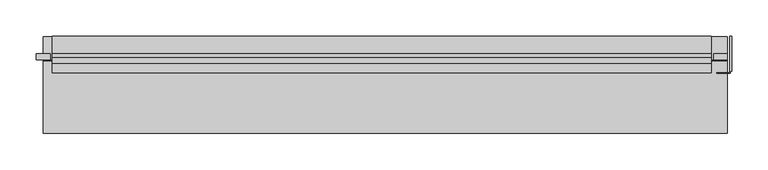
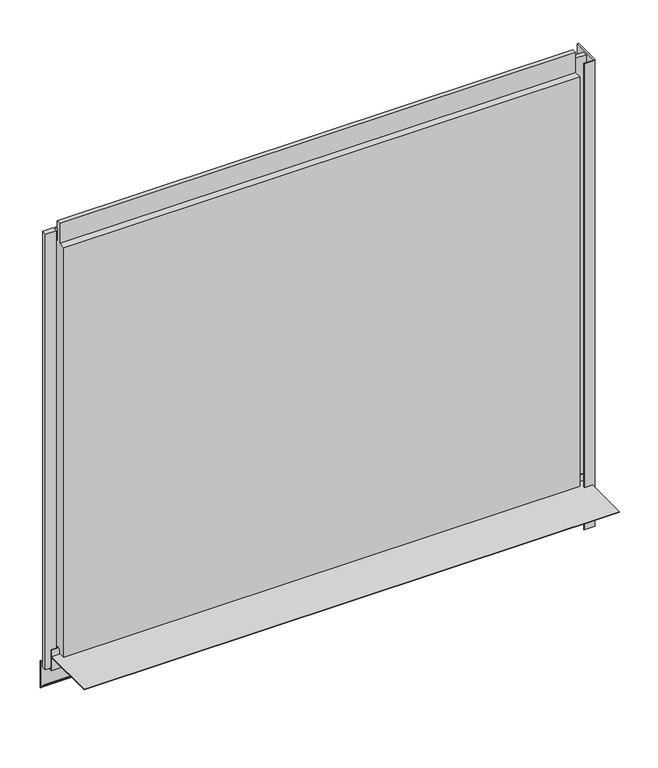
"""IFC4 building model written with IfcOpenShell, lengths in millimetres: plate geometry, Trimo_Qbiss Screen_Normal Panel-HORIZONTAL : HR - B."""

import ifcopenshell
import ifcopenshell.guid

model = None  # the IFC model being written
_history = None  # IfcOwnerHistory: only IFC2X3 demands one
_inside = {}  # id of a spatial element -> (the spatial element, [elements in it])
_under = {}  # id of a project, library or spatial element -> (it, [spatial elements below it])
_declared = {}  # id of a project -> (the project, [libraries it declares])
_typed = {}  # id of a type object -> (the type object, [elements of that type])
_made_of = {}  # id of a material, layer set ... -> (it, [elements and type objects made of it])


def new_model(schema):
    """Start an empty IFC model of exactly this schema.

    Asked for "IFC4X3", IfcOpenShell would pick the latest addendum, in which some entities
    have other attributes; the version numbers below select the first issue.
    IFC2X3 requires an IfcOwnerHistory on every rooted entity: one is made here for all.
    """
    global model, _history
    if schema == "IFC4X3":
        model = ifcopenshell.file(schema_version=(4, 3, 0, 0))
    else:
        model = ifcopenshell.file(schema=schema)
    _inside.clear()
    _under.clear()
    _declared.clear()
    _typed.clear()
    _made_of.clear()
    _history = None
    if model.schema == "IFC2X3":
        org = make("IfcOrganization", Name="unknown")
        user = make(
            "IfcPersonAndOrganization",
            ThePerson=make("IfcPerson", FamilyName="unknown"),
            TheOrganization=org,
        )
        app = make(
            "IfcApplication",
            ApplicationDeveloper=org,
            Version="unknown",
            ApplicationFullName="unknown",
            ApplicationIdentifier="unknown",
        )
        _history = make(
            "IfcOwnerHistory",
            OwningUser=user,
            OwningApplication=app,
            ChangeAction="ADDED",
            CreationDate=0,
        )
    return model


def make(cls, **values):
    """One entity of the class cls with the attributes given. An attribute that is None is left unset."""
    return model.create_entity(
        cls, **{name: value for name, value in values.items() if value is not None}
    )


def rooted(cls, **values):
    """An entity with a GlobalId (a new one), such as an element, a storey or a relation."""
    return make(cls, GlobalId=ifcopenshell.guid.new(), OwnerHistory=_history, **values)


def si_unit(unit_type, name, prefix=None):
    """IfcSIUnit, for example si_unit("LENGTHUNIT", "METRE", prefix="MILLI")."""
    return make("IfcSIUnit", UnitType=unit_type, Prefix=prefix, Name=name)


def assignment(units):
    """IfcUnitAssignment: the units of a project."""
    return None if units is None else make("IfcUnitAssignment", Units=units)


def point(xyz):
    """IfcCartesianPoint."""
    return None if xyz is None else make("IfcCartesianPoint", Coordinates=xyz)


def direction(xyz):
    """IfcDirection."""
    return None if xyz is None else make("IfcDirection", DirectionRatios=xyz)


def frame(location, z_axis=None, x_axis=None):
    """IfcAxis2Placement3D, a coordinate frame: its origin and axes. An axis left out is left unset."""
    return make(
        "IfcAxis2Placement3D",
        Location=point(location),
        Axis=direction(z_axis),
        RefDirection=direction(x_axis),
    )


def origin():
    """The frame at (0, 0, 0) with its axes left unset."""
    return frame((0.0, 0.0, 0.0))


def place(relative_to, where):
    """IfcLocalPlacement: puts the frame where relative to a parent placement (None: the world)."""
    return make(
        "IfcLocalPlacement", PlacementRelTo=relative_to, RelativePlacement=where
    )


def context(
    kind, dimensions, precision=None, world=None, true_north=None, identifier=None
):
    """IfcGeometricRepresentationContext, for example the 3D "Model" context."""
    return make(
        "IfcGeometricRepresentationContext",
        ContextIdentifier=identifier,
        ContextType=kind,
        CoordinateSpaceDimension=dimensions,
        Precision=precision,
        WorldCoordinateSystem=world,
        TrueNorth=true_north,
    )


def project(units=None, contexts=None):
    """IfcProject with its units and contexts."""
    return rooted(
        "IfcProject",
        Name="project",
        RepresentationContexts=contexts,
        UnitsInContext=assignment(units),
    )


def spatial(cls, under=None, at=None, **own):
    """A site, building, storey or space (cls), placed at a placement, below another one or the project."""
    s = rooted(cls, ObjectPlacement=at, **own)
    if under is not None:
        _under.setdefault(under.id(), (under, []))[1].append(s)
    return s


def polyline(points):
    """IfcPolyline through the points."""
    return make("IfcPolyline", Points=[point(p) for p in points])


def outline(outer, holes=None, kind="AREA"):
    """IfcArbitraryClosedProfileDef: a profile drawn as a closed curve; with holes, ...WithVoids."""
    if holes is None:
        return make("IfcArbitraryClosedProfileDef", ProfileType=kind, OuterCurve=outer)
    return make(
        "IfcArbitraryProfileDefWithVoids",
        ProfileType=kind,
        OuterCurve=outer,
        InnerCurves=holes,
    )


def extrude(swept, where, along, depth):
    """IfcExtrudedAreaSolid: the profile swept, set in the frame where, extruded along a direction by depth."""
    return make(
        "IfcExtrudedAreaSolid",
        SweptArea=swept,
        Position=where,
        ExtrudedDirection=direction(along),
        Depth=depth,
    )


def shape(context_of_items, identifier, shape_type, items):
    """IfcShapeRepresentation: the items that make up one representation, for example the "Body"."""
    return make(
        "IfcShapeRepresentation",
        ContextOfItems=context_of_items,
        RepresentationIdentifier=identifier,
        RepresentationType=shape_type,
        Items=items,
    )


def source(mapping_origin, context_of_items, identifier, shape_type, items):
    """IfcRepresentationMap: a shape defined once, which mapped items show again and again."""
    return make(
        "IfcRepresentationMap",
        MappingOrigin=mapping_origin,
        MappedRepresentation=shape(context_of_items, identifier, shape_type, items),
    )


def transform(
    local_origin,
    x_axis=None,
    y_axis=None,
    z_axis=None,
    scale=None,
    scale2=None,
    scale3=None,
    uniform=True,
):
    """IfcCartesianTransformationOperator3D, or its non-uniform kind. x_axis, y_axis, z_axis: its Axis1, 2, 3."""
    if uniform:
        return make(
            "IfcCartesianTransformationOperator3D",
            Axis1=direction(x_axis),
            Axis2=direction(y_axis),
            LocalOrigin=point(local_origin),
            Scale=scale,
            Axis3=direction(z_axis),
        )
    return make(
        "IfcCartesianTransformationOperator3DnonUniform",
        Axis1=direction(x_axis),
        Axis2=direction(y_axis),
        LocalOrigin=point(local_origin),
        Scale=scale,
        Axis3=direction(z_axis),
        Scale2=scale2,
        Scale3=scale3,
    )


def mapped(mapping_source, mapping_target):
    """IfcMappedItem: shows the shape of a source again, moved by a transform."""
    return make(
        "IfcMappedItem", MappingSource=mapping_source, MappingTarget=mapping_target
    )


def made_of(thing, what):
    """Note that an element or type object is made of a material, layer set ...; save() writes the relation."""
    if what is not None:
        _made_of.setdefault(what.id(), (what, []))[1].append(thing)
    return thing


def element(
    cls,
    number,
    at=None,
    inside=None,
    cuts=None,
    type_object=None,
    material=None,
    context=None,
    identifier="Body",
    shape_type=None,
    held_by="IfcProductDefinitionShape",
    body=None,
    shapes=None,
    **own,
):
    """One element of the class cls, such as IfcWall. Its Tag is "e" and its number.

    at: its placement. inside: the storey or other place that contains it. cuts: it is an
    opening in that element (IfcRelVoidsElement). A single representation is given by context,
    identifier, shape_type and body (its items); several are given by shapes. held_by: the class
    of the entity that holds the representations. save() writes the other relations.
    """
    e = rooted(cls, Tag="e%d" % number, ObjectPlacement=at, **own)
    if body is not None:
        shapes = [shape(context, identifier, shape_type, body)]
    if shapes is not None:
        e.Representation = make(held_by, Representations=shapes)
    if inside is not None:
        _inside.setdefault(inside.id(), (inside, []))[1].append(e)
    if cuts is not None:
        rooted(
            "IfcRelVoidsElement", RelatingBuildingElement=cuts, RelatedOpeningElement=e
        )
    if type_object is not None:
        _typed.setdefault(type_object.id(), (type_object, []))[1].append(e)
    return made_of(e, material)


def aggregate(whole, parts):
    """IfcRelAggregates: a whole, such as a stair, and the parts it consists of."""
    return rooted("IfcRelAggregates", RelatingObject=whole, RelatedObjects=parts)


def save(model, path):
    """Write the relations noted so far, then the file.

    IfcRelAggregates (storeys below a building ...), IfcRelContainedInSpatialStructure (elements
    in a storey), IfcRelDefinesByType, IfcRelAssociatesMaterial and IfcRelDeclares: one each for
    every whole, place, type object, material and project.
    """
    for whole, parts in _under.values():
        aggregate(whole, parts)
    for where, things in _inside.values():
        rooted(
            "IfcRelContainedInSpatialStructure",
            RelatedElements=things,
            RelatingStructure=where,
        )
    for kind, things in _typed.values():
        rooted("IfcRelDefinesByType", RelatedObjects=things, RelatingType=kind)
    for what, things in _made_of.values():
        rooted("IfcRelAssociatesMaterial", RelatedObjects=things, RelatingMaterial=what)
    for by, libraries in _declared.values():
        rooted("IfcRelDeclares", RelatingContext=by, RelatedDefinitions=libraries)
    model.write(path)


def plate_d4cb7aa0(model_context):
    return source(origin(), model_context, "Body", "SweptSolid", [
        extrude(outline(polyline([(111.7, 14.0835797), (112.5, 14.0835797), (112.5, -23.0), (145.0, -25.8433816), (145.0, -76.0), (132.1509533, -63.1509533), (132.7166388, -62.5852679), (144.2, -74.0686292), (144.2, -26.5764465), (111.7, -23.7330649), (111.7, 1.0), (12.5, 1.0), (12.5, 1.8), (111.7, 1.8), (111.7, 14.0835797)])), frame((-478.75, 0.0, 0.0), z_axis=(1.0, 0.0, 0.0), x_axis=(0.0, 1.0, 0.0)), (0.0, 0.0, 1.0), 938.5),
        extrude(outline(polyline([(462.75, 145.0), (465.35, 145.0), (465.35, 97.0), (464.55, 97.0), (464.55, 144.2), (463.55, 144.2), (463.55, 94.2), (445.25, 94.2), (445.25, 95.0), (462.75, 95.0), (462.75, 145.0)])), frame((0.0, 0.0, -76.0), z_axis=(0.0, 0.0, 1.0), x_axis=(1.0, 0.0, 0.0)), (0.0, 0.0, 1.0), 862.95),
        extrude(outline(polyline([(-469.25, 121.5978162), (-469.25, 112.8978162), (-488.25, 112.8978162), (-488.25, 121.5978162), (-469.25, 121.5978162)])), frame((0.0, 0.0, -20.0), z_axis=(0.0, 0.0, 1.0), x_axis=(1.0, 0.0, 0.0)), (0.0, 0.0, 1.0), 806.95),
        extrude(outline(polyline([(440.75, 112.8978162), (440.75, 121.5978162), (459.75, 121.5978162), (459.75, 112.8978162), (440.75, 112.8978162)])), frame((0.0, 0.0, -20.0), z_axis=(0.0, 0.0, 1.0), x_axis=(1.0, 0.0, 0.0)), (0.0, 0.0, 1.0), 806.95),
        extrude(outline(polyline([(437.75, 121.0), (437.75, 116.0), (-466.25, 116.0), (-466.25, 121.0), (437.75, 121.0)])), frame((0.0, 0.0, 765.95), z_axis=(0.0, 0.0, 1.0), x_axis=(1.0, 0.0, 0.0)), (0.0, 0.0, 1.0), 21.0),
        extrude(outline(polyline([(116.0, 764.95), (145.0, 764.95), (145.0, 0.0), (117.0, 0.0), (117.0, 15.5), (107.0, 15.5), (107.0, 7.0), (95.0, 7.0), (95.0, 764.95), (108.0, 764.95), (108.0, 802.45), (116.0, 802.45), (116.0, 764.95)])), frame((-466.25, 0.0, 0.0), z_axis=(1.0, 0.0, 0.0), x_axis=(0.0, 1.0, 0.0)), (0.0, 0.0, 1.0), 904.0),
    ])


if __name__ == "__main__":
    model = new_model("IFC4")
    model_context = context("Model", 3, world=origin())
    ifc_project = project(units=[si_unit("LENGTHUNIT", "METRE", prefix="MILLI")], contexts=[model_context])
    site = spatial("IfcSite", under=ifc_project)
    building = spatial("IfcBuilding", under=site)
    placement = place(None, origin())
    plate_shape = plate_d4cb7aa0(model_context)
    element("IfcPlate", 1, ObjectType="Trimo_Qbiss Screen_Normal Panel-HORIZONTAL : HR - B", at=placement, inside=building, context=model_context, shape_type="MappedRepresentation", body=[
        mapped(plate_shape, transform((0.0, 0.0, 0.0), x_axis=(1.0, 0.0, 0.0), y_axis=(0.0, 1.0, 0.0), z_axis=(0.0, 0.0, 1.0))),
    ])
    save(model, "model.ifc")
